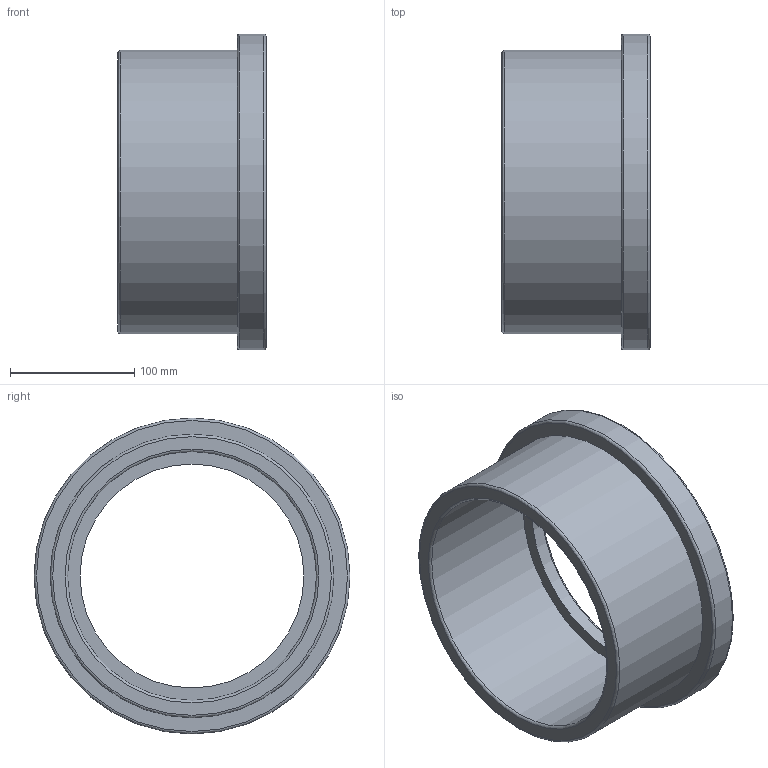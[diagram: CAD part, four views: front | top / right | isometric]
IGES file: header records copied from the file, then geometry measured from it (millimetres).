
Global section: file name: 055000200.ipt; native system: Autodesk Inventor 2015; preprocessor: unknown; author: KIM; date: 20171207.165723; units: millimetre
Bounding box: 119 x 254 x 254 mm (x, y, z)
Volume: 1368810 mm3; surface area: 215572.8 mm2
Topology: 1 solids, 1 shells, 21 faces, 60 edges, 45 vertices
Faces by surface type: revolution 12, plane 6, cylinder 3
Full cylindrical faces by diameter (mm): 205.9 x1, 228 x1, 254 x1
